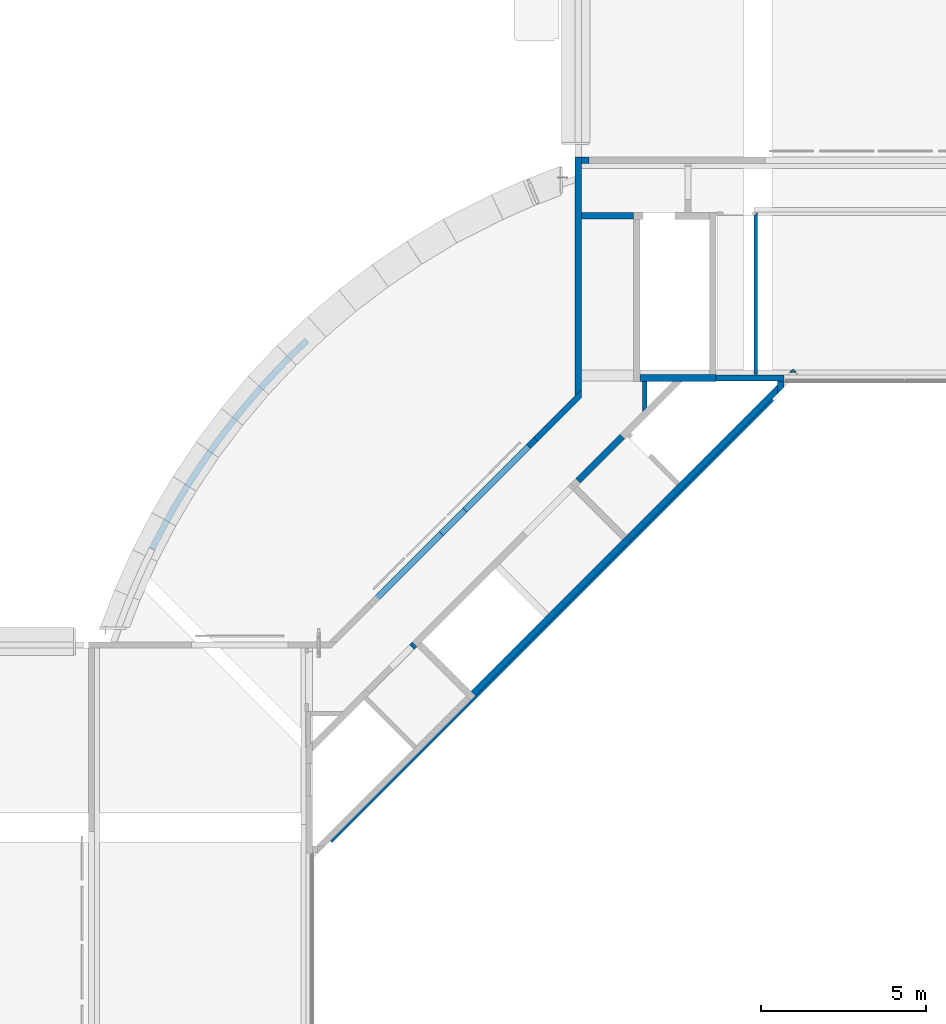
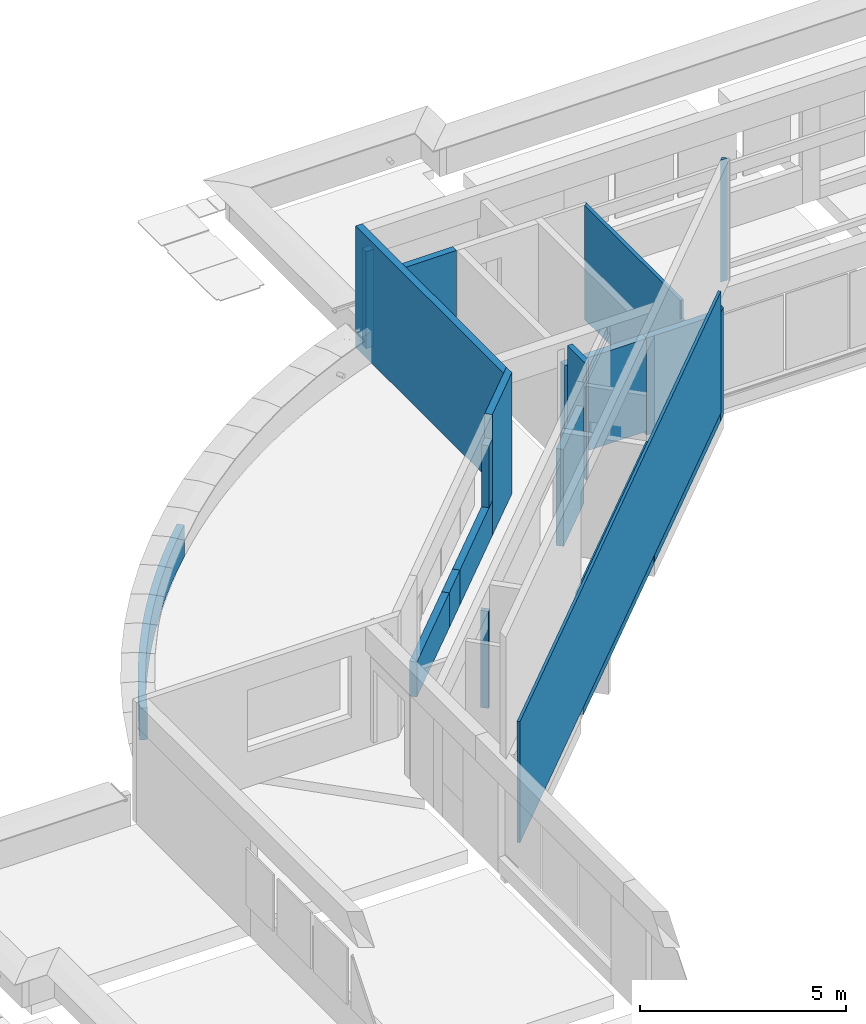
# One storey, part 14 of 38: 20 walls.
"""IFC4X3_ADD2 building model written with IfcOpenShell, lengths in millimetres."""

import ifcopenshell
import ifcopenshell.guid

model = None  # the IFC model being written
_history = None  # IfcOwnerHistory: only IFC2X3 demands one
_inside = {}  # id of a spatial element -> (the spatial element, [elements in it])
_under = {}  # id of a project, library or spatial element -> (it, [spatial elements below it])
_declared = {}  # id of a project -> (the project, [libraries it declares])
_typed = {}  # id of a type object -> (the type object, [elements of that type])
_made_of = {}  # id of a material, layer set ... -> (it, [elements and type objects made of it])


def new_model(schema):
    """Start an empty IFC model of exactly this schema.

    Asked for "IFC4X3", IfcOpenShell would pick the latest addendum, in which some entities
    have other attributes; the version numbers below select the first issue.
    IFC2X3 requires an IfcOwnerHistory on every rooted entity: one is made here for all.
    """
    global model, _history
    if schema == "IFC4X3":
        model = ifcopenshell.file(schema_version=(4, 3, 0, 0))
    else:
        model = ifcopenshell.file(schema=schema)
    _inside.clear()
    _under.clear()
    _declared.clear()
    _typed.clear()
    _made_of.clear()
    _history = None
    if model.schema == "IFC2X3":
        org = make("IfcOrganization", Name="unknown")
        user = make(
            "IfcPersonAndOrganization",
            ThePerson=make("IfcPerson", FamilyName="unknown"),
            TheOrganization=org,
        )
        app = make(
            "IfcApplication",
            ApplicationDeveloper=org,
            Version="unknown",
            ApplicationFullName="unknown",
            ApplicationIdentifier="unknown",
        )
        _history = make(
            "IfcOwnerHistory",
            OwningUser=user,
            OwningApplication=app,
            ChangeAction="ADDED",
            CreationDate=0,
        )
    return model


def make(cls, **values):
    """One entity of the class cls with the attributes given. An attribute that is None is left unset."""
    return model.create_entity(
        cls, **{name: value for name, value in values.items() if value is not None}
    )


def rooted(cls, **values):
    """An entity with a GlobalId (a new one), such as an element, a storey or a relation."""
    return make(cls, GlobalId=ifcopenshell.guid.new(), OwnerHistory=_history, **values)


def si_unit(unit_type, name, prefix=None):
    """IfcSIUnit, for example si_unit("LENGTHUNIT", "METRE", prefix="MILLI")."""
    return make("IfcSIUnit", UnitType=unit_type, Prefix=prefix, Name=name)


def assignment(units):
    """IfcUnitAssignment: the units of a project."""
    return None if units is None else make("IfcUnitAssignment", Units=units)


def point(xyz):
    """IfcCartesianPoint."""
    return None if xyz is None else make("IfcCartesianPoint", Coordinates=xyz)


def direction(xyz):
    """IfcDirection."""
    return None if xyz is None else make("IfcDirection", DirectionRatios=xyz)


def frame(location, z_axis=None, x_axis=None):
    """IfcAxis2Placement3D, a coordinate frame: its origin and axes. An axis left out is left unset."""
    return make(
        "IfcAxis2Placement3D",
        Location=point(location),
        Axis=direction(z_axis),
        RefDirection=direction(x_axis),
    )


def frame_2d(location, x_axis=None):
    """IfcAxis2Placement2D, a coordinate frame in the plane: its origin and x axis."""
    return make(
        "IfcAxis2Placement2D", Location=point(location), RefDirection=direction(x_axis)
    )


def origin_with_axes():
    """The frame at (0, 0, 0) with the z axis (0, 0, 1) and the x axis (1, 0, 0) written out."""
    return frame((0.0, 0.0, 0.0), z_axis=(0.0, 0.0, 1.0), x_axis=(1.0, 0.0, 0.0))


def origin_2d_with_axis():
    """The frame at (0, 0) in the plane with the x axis (1, 0) written out."""
    return frame_2d((0.0, 0.0), x_axis=(1.0, 0.0))


def place(relative_to, where):
    """IfcLocalPlacement: puts the frame where relative to a parent placement (None: the world)."""
    return make(
        "IfcLocalPlacement", PlacementRelTo=relative_to, RelativePlacement=where
    )


def context(
    kind, dimensions, precision=None, world=None, true_north=None, identifier=None
):
    """IfcGeometricRepresentationContext, for example the 3D "Model" context."""
    return make(
        "IfcGeometricRepresentationContext",
        ContextIdentifier=identifier,
        ContextType=kind,
        CoordinateSpaceDimension=dimensions,
        Precision=precision,
        WorldCoordinateSystem=world,
        TrueNorth=true_north,
    )


def subcontext(parent, identifier, kind, view, scale=None):
    """IfcGeometricRepresentationSubContext, for example "Body" below "Model"."""
    return make(
        "IfcGeometricRepresentationSubContext",
        ContextIdentifier=identifier,
        ContextType=kind,
        ParentContext=parent,
        TargetScale=scale,
        TargetView=view,
    )


def project(units=None, contexts=None):
    """IfcProject with its units and contexts."""
    return rooted(
        "IfcProject",
        Name="project",
        RepresentationContexts=contexts,
        UnitsInContext=assignment(units),
    )


def spatial(cls, under=None, at=None, **own):
    """A site, building, storey or space (cls), placed at a placement, below another one or the project."""
    s = rooted(cls, ObjectPlacement=at, **own)
    if under is not None:
        _under.setdefault(under.id(), (under, []))[1].append(s)
    return s


def polyline(points):
    """IfcPolyline through the points."""
    return make("IfcPolyline", Points=[point(p) for p in points])


def circle_curve(where, radius):
    """IfcCircle in the frame where."""
    return make("IfcCircle", Position=where, Radius=radius)


def trimmed(basis, trim1, trim2, sense, master):
    """IfcTrimmedCurve: the piece of a basis curve between two trims."""
    return make(
        "IfcTrimmedCurve",
        BasisCurve=basis,
        Trim1=trim1,
        Trim2=trim2,
        SenseAgreement=sense,
        MasterRepresentation=master,
    )


def segment(curve, same_sense, transition):
    """IfcCompositeCurveSegment."""
    return make(
        "IfcCompositeCurveSegment",
        Transition=transition,
        SameSense=same_sense,
        ParentCurve=curve,
    )


def composite_curve(segments, self_intersect=None):
    """IfcCompositeCurve: segments joined end to end."""
    return make("IfcCompositeCurve", Segments=segments, SelfIntersect=self_intersect)


def profile(cls, at=None, kind="AREA", **sizes):
    """A parametric profile (cls). Its sizes go by their IFC names, for example OverallWidth=200.0."""
    return make(cls, ProfileType=kind, Position=at, **sizes)


def rectangle(**sizes):
    """IfcRectangleProfileDef."""
    return profile("IfcRectangleProfileDef", **sizes)


def outline(outer, holes=None, kind="AREA"):
    """IfcArbitraryClosedProfileDef: a profile drawn as a closed curve; with holes, ...WithVoids."""
    if holes is None:
        return make("IfcArbitraryClosedProfileDef", ProfileType=kind, OuterCurve=outer)
    return make(
        "IfcArbitraryProfileDefWithVoids",
        ProfileType=kind,
        OuterCurve=outer,
        InnerCurves=holes,
    )


def extrude(swept, where, along, depth):
    """IfcExtrudedAreaSolid: the profile swept, set in the frame where, extruded along a direction by depth."""
    return make(
        "IfcExtrudedAreaSolid",
        SweptArea=swept,
        Position=where,
        ExtrudedDirection=direction(along),
        Depth=depth,
    )


def shape(context_of_items, identifier, shape_type, items):
    """IfcShapeRepresentation: the items that make up one representation, for example the "Body"."""
    return make(
        "IfcShapeRepresentation",
        ContextOfItems=context_of_items,
        RepresentationIdentifier=identifier,
        RepresentationType=shape_type,
        Items=items,
    )


def source(mapping_origin, context_of_items, identifier, shape_type, items):
    """IfcRepresentationMap: a shape defined once, which mapped items show again and again."""
    return make(
        "IfcRepresentationMap",
        MappingOrigin=mapping_origin,
        MappedRepresentation=shape(context_of_items, identifier, shape_type, items),
    )


def transform(
    local_origin,
    x_axis=None,
    y_axis=None,
    z_axis=None,
    scale=None,
    scale2=None,
    scale3=None,
    uniform=True,
):
    """IfcCartesianTransformationOperator3D, or its non-uniform kind. x_axis, y_axis, z_axis: its Axis1, 2, 3."""
    if uniform:
        return make(
            "IfcCartesianTransformationOperator3D",
            Axis1=direction(x_axis),
            Axis2=direction(y_axis),
            LocalOrigin=point(local_origin),
            Scale=scale,
            Axis3=direction(z_axis),
        )
    return make(
        "IfcCartesianTransformationOperator3DnonUniform",
        Axis1=direction(x_axis),
        Axis2=direction(y_axis),
        LocalOrigin=point(local_origin),
        Scale=scale,
        Axis3=direction(z_axis),
        Scale2=scale2,
        Scale3=scale3,
    )


def mapped(mapping_source, mapping_target):
    """IfcMappedItem: shows the shape of a source again, moved by a transform."""
    return make(
        "IfcMappedItem", MappingSource=mapping_source, MappingTarget=mapping_target
    )


def material(Name=None, Category=None):
    """IfcMaterial."""
    return make("IfcMaterial", Name=Name, Category=Category)


def made_of(thing, what):
    """Note that an element or type object is made of a material, layer set ...; save() writes the relation."""
    if what is not None:
        _made_of.setdefault(what.id(), (what, []))[1].append(thing)
    return thing


def type_object(cls, material=None, **own):
    """A type object (cls), such as IfcWallType, which elements share."""
    return made_of(rooted(cls, **own), material)


def type_shapes(of_type, sources):
    """Give a type object the sources (RepresentationMaps) that its elements show as mapped items."""
    of_type.RepresentationMaps = sources


def element(
    cls,
    number,
    at=None,
    inside=None,
    cuts=None,
    type_object=None,
    material=None,
    context=None,
    identifier="Body",
    shape_type=None,
    held_by="IfcProductDefinitionShape",
    body=None,
    shapes=None,
    **own,
):
    """One element of the class cls, such as IfcWall. Its Tag is "e" and its number.

    at: its placement. inside: the storey or other place that contains it. cuts: it is an
    opening in that element (IfcRelVoidsElement). A single representation is given by context,
    identifier, shape_type and body (its items); several are given by shapes. held_by: the class
    of the entity that holds the representations. save() writes the other relations.
    """
    e = rooted(cls, Tag="e%d" % number, ObjectPlacement=at, **own)
    if body is not None:
        shapes = [shape(context, identifier, shape_type, body)]
    if shapes is not None:
        e.Representation = make(held_by, Representations=shapes)
    if inside is not None:
        _inside.setdefault(inside.id(), (inside, []))[1].append(e)
    if cuts is not None:
        rooted(
            "IfcRelVoidsElement", RelatingBuildingElement=cuts, RelatedOpeningElement=e
        )
    if type_object is not None:
        _typed.setdefault(type_object.id(), (type_object, []))[1].append(e)
    return made_of(e, material)


def aggregate(whole, parts):
    """IfcRelAggregates: a whole, such as a stair, and the parts it consists of."""
    return rooted("IfcRelAggregates", RelatingObject=whole, RelatedObjects=parts)


def save(model, path):
    """Write the relations noted so far, then the file.

    IfcRelAggregates (storeys below a building ...), IfcRelContainedInSpatialStructure (elements
    in a storey), IfcRelDefinesByType, IfcRelAssociatesMaterial and IfcRelDeclares: one each for
    every whole, place, type object, material and project.
    """
    for whole, parts in _under.values():
        aggregate(whole, parts)
    for where, things in _inside.values():
        rooted(
            "IfcRelContainedInSpatialStructure",
            RelatedElements=things,
            RelatingStructure=where,
        )
    for kind, things in _typed.values():
        rooted("IfcRelDefinesByType", RelatedObjects=things, RelatingType=kind)
    for what, things in _made_of.values():
        rooted("IfcRelAssociatesMaterial", RelatedObjects=things, RelatingMaterial=what)
    for by, libraries in _declared.values():
        rooted("IfcRelDeclares", RelatingContext=by, RelatedDefinitions=libraries)
    model.write(path)


model = new_model("IFC4X3_ADD2")

# Units and contexts
model_context = context("Model", 3, precision=1e-05, world=origin_with_axes(), true_north=direction((0.0, 1.0)))
body_context = subcontext(model_context, "Body", "Model", "MODEL_VIEW")
ifc_project = project(units=[si_unit("LENGTHUNIT", "METRE", prefix="MILLI"), si_unit("AREAUNIT", "SQUARE_METRE"), si_unit("VOLUMEUNIT", "CUBIC_METRE"), si_unit("PLANEANGLEUNIT", "RADIAN"), si_unit("TIMEUNIT", "SECOND"), si_unit("MASSUNIT", "GRAM")], contexts=[model_context])

# Site, building, storey
site_placement = place(None, origin_with_axes())
site = spatial("IfcSite", under=ifc_project, at=site_placement, Name="Site", CompositionType="ELEMENT")
building_placement = place(site_placement, origin_with_axes())
building = spatial("IfcBuilding", under=site, at=building_placement, Name="IFC Building Story")
storey_placement = place(building_placement, frame((0.0, 0.0, 10800.0), z_axis=(0.0, 0.0, 1.0), x_axis=(1.0, 0.0, 0.0)))
storey = spatial("IfcBuildingStorey", under=building, at=storey_placement, Name="030", Elevation=10800.0)

# Walls
ifc_material_1 = material(Name="BB_Beton_Bestaand")
wall_type_1 = type_object("IfcWallType", Name="BB_Beton_Bestaand 200", PredefinedType="NOTDEFINED", material=ifc_material_1)
wall_1_placement = place(storey_placement, origin_with_axes())
element("IfcWall", 1, at=wall_1_placement, inside=storey, type_object=wall_type_1, Name="Basic Wall:BB_XX_Wand uit beton, 200 mm", ObjectType="Basic Wall:BB_XX_Wand uit beton, 200 mm", PredefinedType="SOLIDWALL", context=body_context, shape_type="SweptSolid", body=[
    extrude(rectangle(XDim=6670.000000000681, YDim=199.9999999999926, at=frame_2d((0.0, 0.0), x_axis=(0.7071067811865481, 0.7071067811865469))), frame((-31380.15151901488, 31521.57287525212, -200.0), z_axis=(0.0, 0.0, 1.0), x_axis=(1.0, 0.0, 0.0)), (0.0, 0.0, 1.0), 3600.0),
])
wall_2_placement = place(storey_placement, origin_with_axes())
element("IfcWall", 2, at=wall_2_placement, inside=storey, type_object=wall_type_1, Name="Basic Wall:BB_XX_Wand uit beton, 200 mm", ObjectType="Basic Wall:BB_XX_Wand uit beton, 200 mm", PredefinedType="SOLIDWALL", context=body_context, shape_type="SweptSolid", body=[
    extrude(rectangle(XDim=2299.999999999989, YDim=200.0, at=origin_2d_with_axis()), frame((-27550.0, 38699.9959341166, -80.0), z_axis=(0.0, 0.0, 1.0), x_axis=(1.0, 0.0, 0.0)), (0.0, 0.0, 1.0), 2760.0),
])
wall_type_2 = type_object("IfcWallType", Name="BB_Beton_Bestaand 190", PredefinedType="NOTDEFINED", material=ifc_material_1)
wall_3_placement = place(storey_placement, origin_with_axes())
element("IfcWall", 3, at=wall_3_placement, inside=storey, type_object=wall_type_2, Name="Basic Wall:BB_XX_Wand uit beton, 190 mm", ObjectType="Basic Wall:BB_XX_Wand uit beton, 190 mm", PredefinedType="SOLIDWALL", context=body_context, shape_type="SweptSolid", body=[
    extrude(outline(composite_curve([segment(polyline([(-2255.463019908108, -3192.224124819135), (-2425.557320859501, -3107.560503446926)]), True, "CONTINUOUS"), segment(trimmed(circle_curve(frame_2d((17590.2250894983, -13070.32006668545), x_axis=(1.0, 0.0)), 22358.17800299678), [point((-2425.557320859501, -3107.560503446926))], [point((2275.437568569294, 3219.10616024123))], False, "CARTESIAN"), True, "CONTINUOUS"), segment(polyline([(2275.437568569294, 3219.10616024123), (2405.58277219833, 3080.678468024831)]), True, "CONTINUOUS"), segment(trimmed(circle_curve(frame_2d((17590.2250894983, -13070.32006668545), x_axis=(1.0, 0.0)), 22168.17800299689), [point((2405.58277219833, 3080.678468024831))], [point((-2255.463019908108, -3192.224124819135))], True, "CARTESIAN"), True, "CONTINUOUS")], self_intersect=False)), frame((-41107.07313565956, 36688.57331047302, -200.0), z_axis=(0.0, 0.0, 1.0), x_axis=(1.0, 0.0, 0.0)), (0.0, 0.0, 1.0), 940.000000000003),
])
wall_4_placement = place(storey_placement, origin_with_axes())
element("IfcWall", 4, at=wall_4_placement, inside=storey, type_object=wall_type_2, Name="Basic Wall:BB_XX_Wand uit beton, 190 mm", ObjectType="Basic Wall:BB_XX_Wand uit beton, 190 mm", PredefinedType="SOLIDWALL", context=body_context, shape_type="SweptSolid", body=[
    extrude(rectangle(XDim=3040.79294820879, YDim=190.0000000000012, at=frame_2d((0.0, 0.0), x_axis=(0.7071067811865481, 0.7071067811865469))), frame((-35778.07534846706, 32921.92465152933, -200.0), z_axis=(0.0, 0.0, 1.0), x_axis=(1.0, 0.0, 0.0)), (0.0, 0.0, 1.0), 1040.0),
])
wall_5_placement = place(storey_placement, origin_with_axes())
element("IfcWall", 5, at=wall_5_placement, inside=storey, type_object=wall_type_2, Name="Basic Wall:BB_XX_Wand uit beton, 190 mm", ObjectType="Basic Wall:BB_XX_Wand uit beton, 190 mm", PredefinedType="SOLIDWALL", context=body_context, shape_type="SweptSolid", body=[
    extrude(outline(polyline([(688.4209972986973, 554.0707088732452), (-621.2458530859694, -755.5961415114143), (-755.596141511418, -621.2458530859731), (688.4209972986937, 822.7712857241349), (688.4209972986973, 554.0707088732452)])), frame((-31158.4209972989, 37541.57900269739, -200.0), z_axis=(0.0, 0.0, 1.0), x_axis=(1.0, 0.0, 0.0)), (0.0, 0.0, 1.0), 3600.0),
])
wall_6_placement = place(storey_placement, origin_with_axes())
element("IfcWall", 6, at=wall_6_placement, inside=storey, type_object=wall_type_2, Name="Basic Wall:BB_XX_Wand uit beton, 190 mm", ObjectType="Basic Wall:BB_XX_Wand uit beton, 190 mm", PredefinedType="SOLIDWALL", context=body_context, shape_type="SweptSolid", body=[
    extrude(outline(polyline([(95.0, 3555.324855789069), (95.0, -3460.324855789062), (-95.0, -3650.324855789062), (-95.0, 3555.324855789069), (95.0, 3555.324855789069)])), frame((-30565.0, 41824.67514421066, -200.0), z_axis=(0.0, 0.0, 1.0), x_axis=(1.0, 0.0, 0.0)), (0.0, 0.0, 1.0), 3600.0),
])
wall_7_placement = place(storey_placement, origin_with_axes())
element("IfcWall", 7, at=wall_7_placement, inside=storey, type_object=wall_type_2, Name="Basic Wall:BB_XX_Wand uit beton, 190 mm", ObjectType="Basic Wall:BB_XX_Wand uit beton, 190 mm", PredefinedType="SOLIDWALL", context=body_context, shape_type="SweptSolid", body=[
    extrude(rectangle(XDim=225.0, YDim=189.9999999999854, at=origin_2d_with_axis()), frame((-30357.5, 45285.0, -200.0), z_axis=(0.0, 0.0, 1.0), x_axis=(1.0, 0.0, 0.0)), (0.0, 0.0, 1.0), 2879.99999999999),
])
wall_8_placement = place(storey_placement, origin_with_axes())
element("IfcWall", 8, at=wall_8_placement, inside=storey, type_object=wall_type_2, Name="Basic Wall:BB_XX_Wand uit beton, 190 mm", ObjectType="Basic Wall:BB_XX_Wand uit beton, 190 mm", PredefinedType="SOLIDWALL", context=body_context, shape_type="SweptSolid", body=[
    extrude(rectangle(XDim=2055.000000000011, YDim=190.0, at=origin_2d_with_axis()), frame((-25372.5, 38699.9959341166, -200.0), z_axis=(0.0, 0.0, 1.0), x_axis=(1.0, 0.0, 0.0)), (0.0, 0.0, 1.0), 2880.0),
])
wall_9_placement = place(storey_placement, origin_with_axes())
element("IfcWall", 9, at=wall_9_placement, inside=storey, type_object=wall_type_2, Name="Basic Wall:BB_XX_Wand uit beton, 190 mm", ObjectType="Basic Wall:BB_XX_Wand uit beton, 190 mm", PredefinedType="SOLIDWALL", context=body_context, shape_type="SweptSolid", body=[
    extrude(rectangle(XDim=999.9999999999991, YDim=190.0000000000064, at=frame_2d((0.0, 0.0), x_axis=(0.7071067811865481, 0.7071067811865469))), frame((-34349.43930094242, 34350.56069905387, -200.0), z_axis=(0.0, 0.0, 1.0), x_axis=(1.0, 0.0, 0.0)), (0.0, 0.0, 1.0), 1040.0),
])
wall_10_placement = place(storey_placement, origin_with_axes())
element("IfcWall", 10, at=wall_10_placement, inside=storey, type_object=wall_type_2, Name="Basic Wall:BB_XX_Wand uit beton, 190 mm", ObjectType="Basic Wall:BB_XX_Wand uit beton, 190 mm", PredefinedType="SOLIDWALL", context=body_context, shape_type="SweptSolid", body=[
    extrude(rectangle(XDim=3039.20705179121, YDim=189.9999999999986, at=frame_2d((0.0, 0.0), x_axis=(0.7071067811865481, 0.7071067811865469))), frame((-32921.36395247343, 35778.63604752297, -200.0), z_axis=(0.0, 0.0, 1.0), x_axis=(1.0, 0.0, 0.0)), (0.0, 0.0, 1.0), 1040.0),
])
wall_type_3 = type_object("IfcWallType", Name="BB_Beton_Bestaand 0", PredefinedType="NOTDEFINED", material=ifc_material_1)
wall_11_placement = place(storey_placement, origin_with_axes())
element("IfcWall", 11, at=wall_11_placement, inside=storey, type_object=wall_type_3, Name="Basic Wall:BB_XX_Wand uit beton, 200 mm", ObjectType="Basic Wall:BB_XX_Wand uit beton, 200 mm", PredefinedType="SOLIDWALL", context=body_context, shape_type="SweptSolid", body=[
    extrude(outline(polyline([(-125.8125214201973, -27.43756426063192), (-22.56243573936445, 75.81252142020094), (74.18747857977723, -20.93739289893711), (74.18747857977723, -27.43756426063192), (-125.8125214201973, -27.43756426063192)])), frame((-24047.33729496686, 38897.43349837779, 3400.0), z_axis=(0.0, 0.0, 1.0), x_axis=(1.0, 0.0, 0.0)), (0.0, 0.0, 1.0), 3620.0013275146),
])
ifc_material_2 = material(Name="BB_Metselwerk_Bestaand")
wall_type_4 = type_object("IfcWallType", Name="BB_Metselwerk_Bestaand 140", PredefinedType="NOTDEFINED", material=ifc_material_2)
wall_12_placement = place(storey_placement, origin_with_axes())
element("IfcWall", 12, at=wall_12_placement, inside=storey, type_object=wall_type_4, Name="Basic Wall:BB_XX_Wand uit metselwerk, 140 mm", ObjectType="Basic Wall:BB_XX_Wand uit metselwerk, 140 mm", PredefinedType="SOLIDWALL", context=body_context, shape_type="SweptSolid", body=[
    extrude(outline(polyline([(-69.99999999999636, -499.0794950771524), (-69.99999999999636, 429.0794950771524), (70.0, 429.0794950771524), (70.0, -359.0794950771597), (-69.99999999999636, -499.0794950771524)])), frame((-28554.0, 38170.91643903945, -200.0), z_axis=(0.0, 0.0, 1.0), x_axis=(1.0, 0.0, 0.0)), (0.0, 0.0, 1.0), 3450.0),
])
ifc_material_3 = material(Name="BB_Metselwerk_Betonsteen")
wall_type_5 = type_object("IfcWallType", Name="BB_Metselwerk_Betonsteen 190", PredefinedType="NOTDEFINED", material=ifc_material_3)
wall_13_placement = place(storey_placement, origin_with_axes())
element("IfcWall", 13, at=wall_13_placement, inside=storey, type_object=wall_type_5, Name="Basic Wall:BB_03.09.24#03_Wand uit metselwerk, 190 mm", ObjectType="Basic Wall:BB_03.09.24#03_Wand uit metselwerk, 190 mm", PredefinedType="SOLIDWALL", context=body_context, shape_type="SweptSolid", body=[
    extrude(rectangle(XDim=304.9999999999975, YDim=190.0000000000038, at=frame_2d((0.0, 0.0), x_axis=(0.7071067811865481, 0.7071067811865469))), frame((-31954.67577872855, 36745.32422126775, 840.0), z_axis=(0.0, 0.0, 1.0), x_axis=(1.0, 0.0, 0.0)), (0.0, 0.0, 1.0), 1840.0),
])
wall_14_placement = place(storey_placement, origin_with_axes())
element("IfcWall", 14, at=wall_14_placement, inside=storey, type_object=wall_type_5, Name="Basic Wall:BB_03.09.24#05_Wand uit metselwerk_EI60, 190 mm", ObjectType="Basic Wall:BB_03.09.24#05_Wand uit metselwerk_EI60, 190 mm", PredefinedType="SOLIDWALL", context=body_context, shape_type="SweptSolid", body=[
    extrude(rectangle(XDim=1569.999999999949, YDim=189.9999999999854, at=origin_2d_with_axis()), frame((-29685.00000000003, 43605.0, -200.0), z_axis=(0.0, 0.0, 1.0), x_axis=(1.0, 0.0, 0.0)), (0.0, 0.0, 1.0), 3390.0),
])
wall_15_placement = place(storey_placement, origin_with_axes())
element("IfcWall", 15, at=wall_15_placement, inside=storey, type_object=wall_type_5, Name="Basic Wall:BB_03.09.24#03_Wand uit metselwerk, 190 mm", ObjectType="Basic Wall:BB_03.09.24#03_Wand uit metselwerk, 190 mm", PredefinedType="SOLIDWALL", context=body_context, shape_type="SweptSolid", body=[
    extrude(rectangle(XDim=1890.000000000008, YDim=189.9999999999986, at=frame_2d((0.0, 0.0), x_axis=(0.7071067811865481, 0.7071067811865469))), frame((-29898.76281242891, 36262.72384310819, -200.0), z_axis=(0.0, 0.0, 1.0), x_axis=(1.0, 0.0, 0.0)), (0.0, 0.0, 1.0), 2880.0),
])
wall_16_placement = place(storey_placement, origin_with_axes())
element("IfcWall", 16, at=wall_16_placement, inside=storey, type_object=wall_type_5, Name="Basic Wall:BB_03.09.24#05_Wand uit metselwerk_EI60, 190 mm", ObjectType="Basic Wall:BB_03.09.24#05_Wand uit metselwerk_EI60, 190 mm", PredefinedType="SOLIDWALL", context=body_context, shape_type="SweptSolid", body=[
    extrude(outline(polyline([(2236.404134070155, 2102.05384564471), (-2169.228989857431, -2303.579278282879), (-2303.579278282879, -2169.228989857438), (2236.404134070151, 2370.754422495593), (2236.404134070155, 2102.05384564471)])), frame((-26771.40413407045, 36123.24919239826, -200.0), z_axis=(0.0, 0.0, 1.0), x_axis=(1.0, 0.0, 0.0)), (0.0, 0.0, 1.0), 3200.0),
])
wall_type_6 = type_object("IfcWallType", Name="BB_Metselwerk_Betonsteen 0", PredefinedType="NOTDEFINED", material=ifc_material_3)
wall_17_placement = place(storey_placement, origin_with_axes())
element("IfcWall", 17, at=wall_17_placement, inside=storey, type_object=wall_type_6, Name="Basic Wall:BB_03.09.24#05_Wand uit metselwerk_EI60, 190 mm", ObjectType="Basic Wall:BB_03.09.24#05_Wand uit metselwerk_EI60, 190 mm", PredefinedType="SOLIDWALL", context=body_context, shape_type="SweptSolid", body=[
    extrude(outline(polyline([(94.99999999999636, 142.3464480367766), (95.0, -47.34644803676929), (-95.00000000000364, -237.3464480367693), (-95.00000000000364, 142.3464480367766), (94.99999999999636, 142.3464480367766)])), frame((-24440.0, 38462.64948607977, -200.0), z_axis=(0.0, 0.0, 1.0), x_axis=(1.0, 0.0, 0.0)), (0.0, 0.0, 1.0), 3199.99999999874),
])
wall_type_7 = type_object("IfcWallType", Name="Basic Wall_BB_10.01.41#01_Gipskartonwand_MS100 _ 25.50.25_ 100 mm139", PredefinedType="NOTDEFINED")
shared_shape_1 = source(origin_with_axes(), body_context, "Body", "SweptSolid", [
    extrude(outline(polyline([(-2805.499999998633, 1657.0), (-2805.499999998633, 1852.0), (2004.499999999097, 1852.0), (2004.499999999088, -983.0), (1839.499999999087, -983.0), (1839.499999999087, -988.0), (1854.499999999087, -988.0), (1854.499999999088, -1538.0), (-2892.999999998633, -1538.0), (-2892.999999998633, 1657.0), (-2805.499999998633, 1657.0)])), frame((2805.499999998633, 37.5, 1852.0), z_axis=(0.0, 1.0, 0.0), x_axis=(1.0, 0.0, 0.0)), (0.0, 0.0, 1.0), 12.50000000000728),
    extrude(outline(polyline([(-2807.999999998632, 1657.0), (-2807.999999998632, 1852.0), (2001.999999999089, 1852.0), (2001.999999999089, -983.0), (1836.999999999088, -983.0), (1836.999999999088, -988.0), (1851.999999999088, -988.0), (1851.999999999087, -1538.0), (-2882.999999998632, -1538.0), (-2882.999999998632, 1657.0), (-2807.999999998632, 1657.0)])), frame((2807.999999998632, 25.0, 1852.0), z_axis=(0.0, 1.0, 0.0), x_axis=(1.0, 0.0, 0.0)), (0.0, 0.0, 1.0), 12.5),
    extrude(outline(polyline([(-2819.999999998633, 1657.0), (-2819.999999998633, 1852.0), (1989.999999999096, 1852.0), (1989.999999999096, -983.0), (1824.999999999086, -983.0), (1824.999999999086, -988.0), (1849.999999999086, -988.0), (1849.999999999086, -1538.0), (-2844.999999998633, -1538.0), (-2844.999999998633, 1657.0), (-2819.999999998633, 1657.0)])), frame((2819.999999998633, -25.0, 1852.0), z_axis=(0.0, 1.0, 0.0), x_axis=(1.0, 0.0, 0.0)), (0.0, 0.0, 1.0), 49.99999999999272),
    extrude(outline(polyline([(-2820.499999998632, 1657.0), (-2820.499999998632, 1852.0), (1989.499999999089, 1852.0), (1989.499999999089, -983.0), (1824.499999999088, -983.0), (1824.499999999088, -988.0), (1839.499999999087, -988.0), (1839.499999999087, -1538.0), (-2832.999999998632, -1538.0), (-2832.999999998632, 1657.0), (-2820.499999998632, 1657.0)])), frame((2820.499999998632, -37.5, 1852.0), z_axis=(0.0, 1.0, 0.0), x_axis=(1.0, 0.0, 0.0)), (0.0, 0.0, 1.0), 12.5),
    extrude(outline(polyline([(-3528.74999999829, 2266.250000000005), (1281.24999999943, 2266.250000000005), (1281.24999999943, -568.7499999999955), (1116.24999999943, -568.7499999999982), (1116.24999999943, -573.7500000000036), (1131.24999999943, -573.7500000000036), (1131.24999999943, -1123.750000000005), (-3528.74999999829, -1123.750000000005), (-3528.74999999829, 2266.250000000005)])), frame((3528.74999999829, -50.0, 2266.250000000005), z_axis=(0.0, 1.0, 0.0), x_axis=(1.0, 0.0, 0.0)), (0.0, 0.0, 1.0), 12.5),
])
type_shapes(wall_type_7, [shared_shape_1])
wall_18_placement = place(storey_placement, frame((-25200.0, 43615.0, -200.0), z_axis=(0.0, 0.0, 1.0), x_axis=(0.0, -1.0, 0.0)))
element("IfcWall", 18, at=wall_18_placement, inside=storey, type_object=wall_type_7, Name="Basic Wall:BB_10.01.41#01_Gipskartonwand_MS100 / 25.50.25, 100 mm", ObjectType="Basic Wall:BB_10.01.41#01_Gipskartonwand_MS100 / 25.50.25, 100 mm", PredefinedType="PARTITIONING", context=body_context, shape_type="MappedRepresentation", body=[
    mapped(shared_shape_1, transform((0.0, 0.0, 0.0))),
])
wall_type_8 = type_object("IfcWallType", Name="Basic Wall_BB_10.01_Akoestische voorzetwand atrium_ 75 mm7", PredefinedType="NOTDEFINED")
shared_shape_2 = source(origin_with_axes(), body_context, "Body", "SweptSolid", [
    extrude(rectangle(XDim=18900.0, YDim=49.99999999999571, at=origin_2d_with_axis()), frame((9449.999999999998, 12.49999999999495, 0.0), z_axis=(0.0, 0.0, 1.0), x_axis=(1.0, 0.0, 0.0)), (0.0, 0.0, 1.0), 3600.0),
    extrude(rectangle(XDim=18899.99999999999, YDim=12.50000000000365, at=origin_2d_with_axis()), frame((9450.000000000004, -18.7500000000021, 0.0), z_axis=(0.0, 0.0, 1.0), x_axis=(1.0, 0.0, 0.0)), (0.0, 0.0, 1.0), 3600.0),
    extrude(rectangle(XDim=18900.0, YDim=12.50000000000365, at=origin_2d_with_axis()), frame((9449.999999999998, -31.25000000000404, 0.0), z_axis=(0.0, 0.0, 1.0), x_axis=(1.0, 0.0, 0.0)), (0.0, 0.0, 1.0), 3600.0),
])
type_shapes(wall_type_8, [shared_shape_2])
wall_19_placement = place(storey_placement, frame((-38035.7940969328, 24671.4759325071, 230.0), z_axis=(0.0, 0.0, 1.0), x_axis=(0.7071067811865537, 0.7071067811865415, 0.0)))
element("IfcWall", 19, at=wall_19_placement, inside=storey, type_object=wall_type_8, Name="Basic Wall:BB_10.01_Akoestische voorzetwand atrium, 75 mm", ObjectType="Basic Wall:BB_10.01_Akoestische voorzetwand atrium, 75 mm", PredefinedType="PARTITIONING", context=body_context, shape_type="MappedRepresentation", body=[
    mapped(shared_shape_2, transform((0.0, 0.0, 0.0))),
])
wall_type_9 = type_object("IfcWallType", Name="BB_Beton_Bestaand 120", PredefinedType="NOTDEFINED", material=ifc_material_1)
wall_20_placement = place(storey_placement, origin_with_axes())
element("IfcWall", 20, at=wall_20_placement, inside=storey, type_object=wall_type_9, Name="Basic Wall:BB_XX_Wand uit beton, 200 mm", ObjectType="Basic Wall:BB_XX_Wand uit beton, 200 mm", PredefinedType="SOLIDWALL", context=body_context, shape_type="SweptSolid", body=[
    extrude(rectangle(XDim=199.9999999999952, YDim=119.9999999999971, at=frame_2d((0.0, 0.0), x_axis=(-0.7071067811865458, 0.7071067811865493))), frame((-35548.54599410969, 30605.86959361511, -200.0), z_axis=(0.0, 0.0, 1.0), x_axis=(1.0, 0.0, 0.0)), (0.0, 0.0, 1.0), 2880.0),
])

save(model, "model.ifc")
